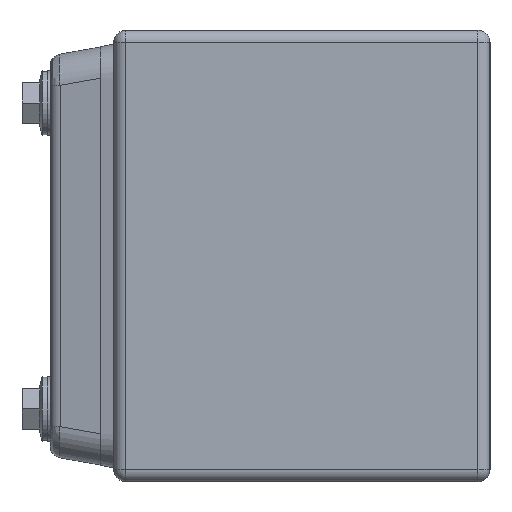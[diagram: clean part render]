
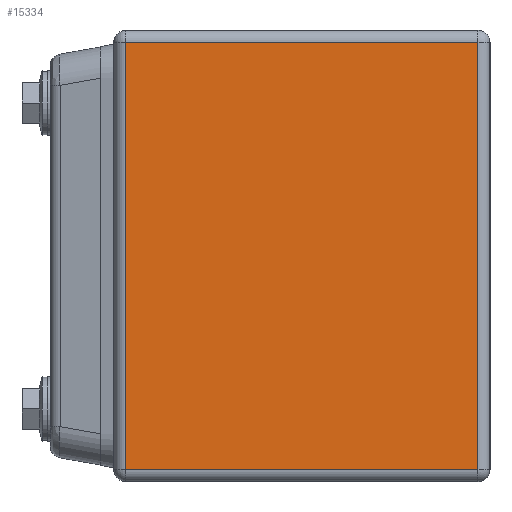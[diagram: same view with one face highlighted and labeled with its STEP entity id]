
A CAD part, left-side view. The second image highlights one B-rep face of the part: STEP entity #15334.
In plain terms, the highlighted planar face has unit normal (-1, 0, 0).
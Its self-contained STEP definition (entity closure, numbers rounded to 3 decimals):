
#1401 = VECTOR ( 'NONE', #7339, 1000. ) ;
#1427 = LINE ( 'NONE', #15121, #2331 ) ;
#1801 = VERTEX_POINT ( 'NONE', #14820 ) ;
#2331 = VECTOR ( 'NONE', #2786, 1000. ) ;
#2365 = CARTESIAN_POINT ( 'NONE',  ( -100., 2.4, 42.6 ) ) ;
#2470 = ORIENTED_EDGE ( 'NONE', *, *, #5601, .T. ) ;
#2786 = DIRECTION ( 'NONE',  ( 0., 1., 0. ) ) ;
#3399 = CARTESIAN_POINT ( 'NONE',  ( -100., 75., -42.6 ) ) ;
#3636 = VECTOR ( 'NONE', #15815, 1000. ) ;
#4384 = PLANE ( 'NONE',  #8865 ) ;
#4420 = VECTOR ( 'NONE', #7081, 1000. ) ;
#5590 = DIRECTION ( 'NONE',  ( 0., 0., 1. ) ) ;
#5601 = EDGE_CURVE ( 'NONE', #12228, #7598, #1427, .T. ) ;
#6074 = LINE ( 'NONE', #13444, #1401 ) ;
#6725 = ORIENTED_EDGE ( 'NONE', *, *, #9395, .T. ) ;
#7004 = ORIENTED_EDGE ( 'NONE', *, *, #8260, .T. ) ;
#7081 = DIRECTION ( 'NONE',  ( 0., 0., -1. ) ) ;
#7153 = CARTESIAN_POINT ( 'NONE',  ( -100., 72.6, -45. ) ) ;
#7339 = DIRECTION ( 'NONE',  ( 0., 0., 1. ) ) ;
#7455 = VERTEX_POINT ( 'NONE', #9519 ) ;
#7598 = VERTEX_POINT ( 'NONE', #11150 ) ;
#8260 = EDGE_CURVE ( 'NONE', #7455, #1801, #15582, .T. ) ;
#8865 = AXIS2_PLACEMENT_3D ( 'NONE', #10701, #14393, #5590 ) ;
#9395 = EDGE_CURVE ( 'NONE', #7598, #7455, #15517, .T. ) ;
#9519 = CARTESIAN_POINT ( 'NONE',  ( -100., 72.6, -42.6 ) ) ;
#10701 = CARTESIAN_POINT ( 'NONE',  ( -100., 75., 45. ) ) ;
#10722 = EDGE_CURVE ( 'NONE', #1801, #12228, #6074, .T. ) ;
#11150 = CARTESIAN_POINT ( 'NONE',  ( -100., 72.6, 42.6 ) ) ;
#12228 = VERTEX_POINT ( 'NONE', #2365 ) ;
#12638 = EDGE_LOOP ( 'NONE', ( #6725, #7004, #13830, #2470 ) ) ;
#13444 = CARTESIAN_POINT ( 'NONE',  ( -100., 2.4, 45. ) ) ;
#13830 = ORIENTED_EDGE ( 'NONE', *, *, #10722, .T. ) ;
#14393 = DIRECTION ( 'NONE',  ( -1., 0., 0. ) ) ;
#14820 = CARTESIAN_POINT ( 'NONE',  ( -100., 2.4, -42.6 ) ) ;
#15121 = CARTESIAN_POINT ( 'NONE',  ( -100., 75., 42.6 ) ) ;
#15334 = ADVANCED_FACE ( 'NONE', ( #15360 ), #4384, .T. ) ;
#15360 = FACE_OUTER_BOUND ( 'NONE', #12638, .T. ) ;
#15517 = LINE ( 'NONE', #7153, #4420 ) ;
#15582 = LINE ( 'NONE', #3399, #3636 ) ;
#15815 = DIRECTION ( 'NONE',  ( 0., -1., 0. ) ) ;
